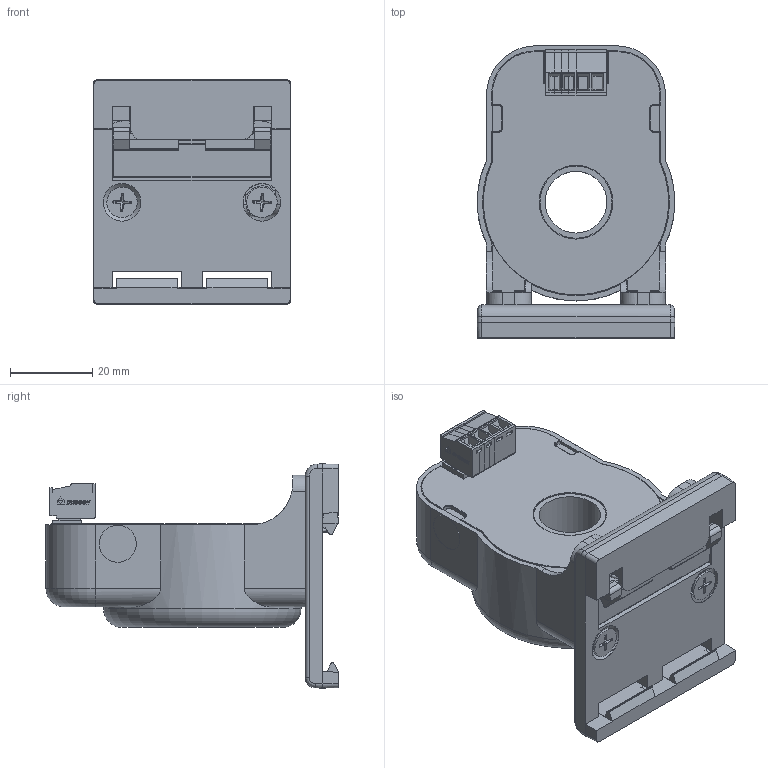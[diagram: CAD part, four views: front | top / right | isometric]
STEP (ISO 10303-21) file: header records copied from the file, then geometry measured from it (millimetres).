
FILE_DESCRIPTION(/* description */ (''),/* implementation_level */ '2;1');
FILE_NAME(/* name */ 'D:\WorkIMT\Project IMT\СКИ\СКИ для сайта\МТ.ПУЛЬС-ТТ.01.СБ с DIN-рейкой для сайта.stp',/* time_stamp */ '2026-10-10T09:35:35+03:00',/* author */ ('admin'),/* organization */ (''),/* preprocessor_version */ 'ST-DEVELOPER v17.2',/* originating_system */ 'Autodesk Inventor 2019',/* authorisation */ '');
FILE_SCHEMA (('AUTOMOTIVE_DESIGN { 1 0 10303 214 3 1 1 }'));
Products named in the file (1): МТ.ПУЛЬС-ТТ.01.СБ 
 для сайта с DIN-рейкой
Bounding box: 48 x 71 x 54.5 mm (x, y, z)
Volume: 42837.5 mm3; surface area: 31644.5 mm2
Topology: 1 solids, 6 shells, 1959 faces, 5603 edges, 3676 vertices
Faces by surface type: plane 1598, cylinder 219, torus 78, cone 50, bspline 14
Full cylindrical faces by diameter (mm): 0.127 x1, 2 x2, 2.87 x1, 2.95 x4, 3.242 x2, 4 x2, 4.5 x2, 7.4 x2, 9 x2, 15 x1, 17.928 x1, 28 x1, 48 x1
Entity records: 66645 total; most frequent: CARTESIAN_POINT 12721, ORIENTED_EDGE 11210, DIRECTION 10318, EDGE_CURVE 5605, LINE 4526, VECTOR 4526, VERTEX_POINT 3676, AXIS2_PLACEMENT_3D 2896
